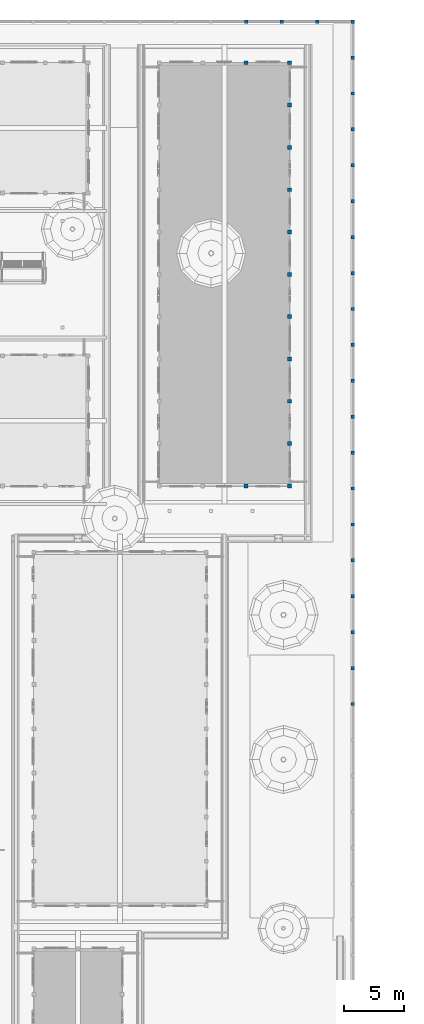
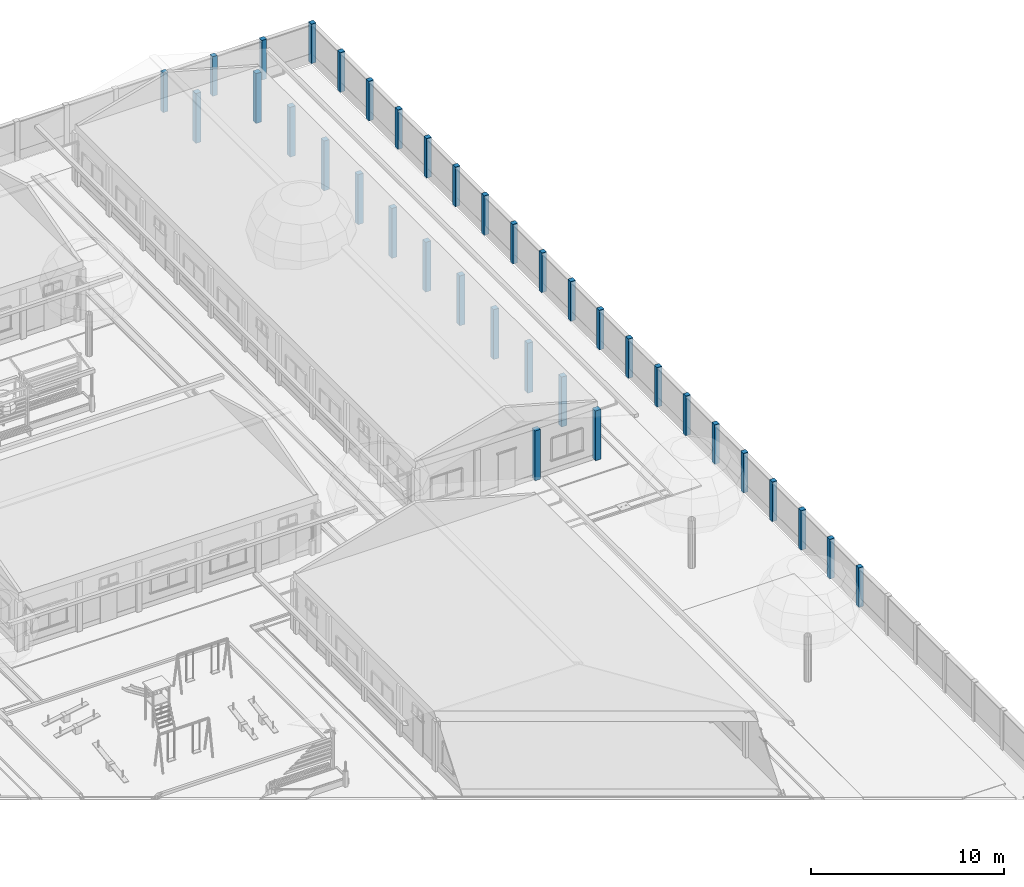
# One storey, part 12 of 177: 39 columns.
"""IFC4 building model written with IfcOpenShell, lengths in metres."""

from ifc_helpers import new_model, si_unit, origin, origin_with_axes, place, context, subcontext, project, spatial, triangles, element, save


model = new_model("IFC4")

# Units and contexts
model_context = context("Model", 3, precision=1e-05, world=origin_with_axes())
body_context = subcontext(model_context, "Body", "Model", "MODEL_VIEW")
ifc_project = project(units=[si_unit("LENGTHUNIT", "METRE"), si_unit("AREAUNIT", "SQUARE_METRE"), si_unit("VOLUMEUNIT", "CUBIC_METRE"), si_unit("PLANEANGLEUNIT", "RADIAN")], contexts=[model_context])

# Site, building, storey
site_placement = place(None, origin_with_axes())
site = spatial("IfcSite", under=ifc_project, at=site_placement, Name="Predio Los Mangos - Morales, San Martín", CompositionType="ELEMENT")
building_placement = place(site_placement, origin())
building = spatial("IfcBuilding", under=site, at=building_placement, Name="Hogar de Refugio Temporal", CompositionType="ELEMENT")
storey_placement = place(building_placement, origin())
storey = spatial("IfcBuildingStorey", under=building, at=storey_placement, Name="NIVEL 1 (NPT +0.00)", CompositionType="ELEMENT", Elevation=0.0)

# Columns
column_1_placement = place(storey_placement, origin())
element("IfcColumn", 1, at=column_1_placement, inside=storey, Name="E-07_col", ObjectType="Columna", PredefinedType="COLUMN", context=body_context, shape_type="Tessellation", body=[
    triangles([(62.74, 92.54, 0.15), (63.06, 92.54, 0.15), (63.06, 92.86, 0.15), (62.74, 92.86, 0.15), (62.74, 92.54, 3.3), (63.06, 92.54, 3.3), (63.06, 92.86, 3.3), (62.74, 92.86, 3.3)], [[1, 4, 3], [1, 3, 2], [5, 6, 7], [5, 7, 8], [1, 2, 6], [1, 6, 5], [2, 3, 7], [2, 7, 6], [3, 4, 8], [3, 8, 7], [4, 1, 5], [4, 5, 8]]),
])
column_2_placement = place(storey_placement, origin())
element("IfcColumn", 2, at=column_2_placement, inside=storey, Name="E-07_col", ObjectType="Columna", PredefinedType="COLUMN", context=body_context, shape_type="Tessellation", body=[
    triangles([(66.34, 92.54, 0.15), (66.66, 92.54, 0.15), (66.66, 92.86, 0.15), (66.34, 92.86, 0.15), (66.34, 92.54, 3.3), (66.66, 92.54, 3.3), (66.66, 92.86, 3.3), (66.34, 92.86, 3.3)], [[1, 4, 3], [1, 3, 2], [5, 6, 7], [5, 7, 8], [1, 2, 6], [1, 6, 5], [2, 3, 7], [2, 7, 6], [3, 4, 8], [3, 8, 7], [4, 1, 5], [4, 5, 8]]),
])
column_3_placement = place(storey_placement, origin())
element("IfcColumn", 3, at=column_3_placement, inside=storey, Name="E-07_col", ObjectType="Columna", PredefinedType="COLUMN", context=body_context, shape_type="Tessellation", body=[
    triangles([(62.74, 127.64, 0.15), (63.06, 127.64, 0.15), (63.06, 127.96, 0.15), (62.74, 127.96, 0.15), (62.74, 127.64, 3.3), (63.06, 127.64, 3.3), (63.06, 127.96, 3.3), (62.74, 127.96, 3.3)], [[1, 4, 3], [1, 3, 2], [5, 6, 7], [5, 7, 8], [1, 2, 6], [1, 6, 5], [2, 3, 7], [2, 7, 6], [3, 4, 8], [3, 8, 7], [4, 1, 5], [4, 5, 8]]),
])
column_4_placement = place(storey_placement, origin())
element("IfcColumn", 4, at=column_4_placement, inside=storey, Name="E-07_col", ObjectType="Columna", PredefinedType="COLUMN", context=body_context, shape_type="Tessellation", body=[
    triangles([(66.34, 127.64, 0.15), (66.66, 127.64, 0.15), (66.66, 127.96, 0.15), (66.34, 127.96, 0.15), (66.34, 127.64, 3.3), (66.66, 127.64, 3.3), (66.66, 127.96, 3.3), (66.34, 127.96, 3.3)], [[1, 4, 3], [1, 3, 2], [5, 6, 7], [5, 7, 8], [1, 2, 6], [1, 6, 5], [2, 3, 7], [2, 7, 6], [3, 4, 8], [3, 8, 7], [4, 1, 5], [4, 5, 8]]),
])
column_5_placement = place(storey_placement, origin())
element("IfcColumn", 5, at=column_5_placement, inside=storey, Name="E-07_col", ObjectType="Columna", PredefinedType="COLUMN", context=body_context, shape_type="Tessellation", body=[
    triangles([(66.34, 92.54, 0.15), (66.66, 92.54, 0.15), (66.66, 92.86, 0.15), (66.34, 92.86, 0.15), (66.34, 92.54, 3.3), (66.66, 92.54, 3.3), (66.66, 92.86, 3.3), (66.34, 92.86, 3.3)], [[1, 4, 3], [1, 3, 2], [5, 6, 7], [5, 7, 8], [1, 2, 6], [1, 6, 5], [2, 3, 7], [2, 7, 6], [3, 4, 8], [3, 8, 7], [4, 1, 5], [4, 5, 8]]),
])
column_6_placement = place(storey_placement, origin())
element("IfcColumn", 6, at=column_6_placement, inside=storey, Name="E-07_col", ObjectType="Columna", PredefinedType="COLUMN", context=body_context, shape_type="Tessellation", body=[
    triangles([(66.34, 96.05, 0.15), (66.66, 96.05, 0.15), (66.66, 96.37, 0.15), (66.34, 96.37, 0.15), (66.34, 96.05, 3.3), (66.66, 96.05, 3.3), (66.66, 96.37, 3.3), (66.34, 96.37, 3.3)], [[1, 4, 3], [1, 3, 2], [5, 6, 7], [5, 7, 8], [1, 2, 6], [1, 6, 5], [2, 3, 7], [2, 7, 6], [3, 4, 8], [3, 8, 7], [4, 1, 5], [4, 5, 8]]),
])
column_7_placement = place(storey_placement, origin())
element("IfcColumn", 7, at=column_7_placement, inside=storey, Name="E-07_col", ObjectType="Columna", PredefinedType="COLUMN", context=body_context, shape_type="Tessellation", body=[
    triangles([(66.34, 99.56, 0.15), (66.66, 99.56, 0.15), (66.66, 99.88, 0.15), (66.34, 99.88, 0.15), (66.34, 99.56, 3.3), (66.66, 99.56, 3.3), (66.66, 99.88, 3.3), (66.34, 99.88, 3.3)], [[1, 4, 3], [1, 3, 2], [5, 6, 7], [5, 7, 8], [1, 2, 6], [1, 6, 5], [2, 3, 7], [2, 7, 6], [3, 4, 8], [3, 8, 7], [4, 1, 5], [4, 5, 8]]),
])
column_8_placement = place(storey_placement, origin())
element("IfcColumn", 8, at=column_8_placement, inside=storey, Name="E-07_col", ObjectType="Columna", PredefinedType="COLUMN", context=body_context, shape_type="Tessellation", body=[
    triangles([(66.34, 103.07, 0.15), (66.66, 103.07, 0.15), (66.66, 103.39, 0.15), (66.34, 103.39, 0.15), (66.34, 103.07, 3.3), (66.66, 103.07, 3.3), (66.66, 103.39, 3.3), (66.34, 103.39, 3.3)], [[1, 4, 3], [1, 3, 2], [5, 6, 7], [5, 7, 8], [1, 2, 6], [1, 6, 5], [2, 3, 7], [2, 7, 6], [3, 4, 8], [3, 8, 7], [4, 1, 5], [4, 5, 8]]),
])
column_9_placement = place(storey_placement, origin())
element("IfcColumn", 9, at=column_9_placement, inside=storey, Name="E-07_col", ObjectType="Columna", PredefinedType="COLUMN", context=body_context, shape_type="Tessellation", body=[
    triangles([(66.34, 106.58, 0.15), (66.66, 106.58, 0.15), (66.66, 106.9, 0.15), (66.34, 106.9, 0.15), (66.34, 106.58, 3.3), (66.66, 106.58, 3.3), (66.66, 106.9, 3.3), (66.34, 106.9, 3.3)], [[1, 4, 3], [1, 3, 2], [5, 6, 7], [5, 7, 8], [1, 2, 6], [1, 6, 5], [2, 3, 7], [2, 7, 6], [3, 4, 8], [3, 8, 7], [4, 1, 5], [4, 5, 8]]),
])
column_10_placement = place(storey_placement, origin())
element("IfcColumn", 10, at=column_10_placement, inside=storey, Name="E-07_col", ObjectType="Columna", PredefinedType="COLUMN", context=body_context, shape_type="Tessellation", body=[
    triangles([(66.34, 110.09, 0.15), (66.66, 110.09, 0.15), (66.66, 110.41, 0.15), (66.34, 110.41, 0.15), (66.34, 110.09, 3.3), (66.66, 110.09, 3.3), (66.66, 110.41, 3.3), (66.34, 110.41, 3.3)], [[1, 4, 3], [1, 3, 2], [5, 6, 7], [5, 7, 8], [1, 2, 6], [1, 6, 5], [2, 3, 7], [2, 7, 6], [3, 4, 8], [3, 8, 7], [4, 1, 5], [4, 5, 8]]),
])
column_11_placement = place(storey_placement, origin())
element("IfcColumn", 11, at=column_11_placement, inside=storey, Name="E-07_col", ObjectType="Columna", PredefinedType="COLUMN", context=body_context, shape_type="Tessellation", body=[
    triangles([(66.34, 113.6, 0.15), (66.66, 113.6, 0.15), (66.66, 113.92, 0.15), (66.34, 113.92, 0.15), (66.34, 113.6, 3.3), (66.66, 113.6, 3.3), (66.66, 113.92, 3.3), (66.34, 113.92, 3.3)], [[1, 4, 3], [1, 3, 2], [5, 6, 7], [5, 7, 8], [1, 2, 6], [1, 6, 5], [2, 3, 7], [2, 7, 6], [3, 4, 8], [3, 8, 7], [4, 1, 5], [4, 5, 8]]),
])
column_12_placement = place(storey_placement, origin())
element("IfcColumn", 12, at=column_12_placement, inside=storey, Name="E-07_col", ObjectType="Columna", PredefinedType="COLUMN", context=body_context, shape_type="Tessellation", body=[
    triangles([(66.34, 117.11, 0.15), (66.66, 117.11, 0.15), (66.66, 117.43, 0.15), (66.34, 117.43, 0.15), (66.34, 117.11, 3.3), (66.66, 117.11, 3.3), (66.66, 117.43, 3.3), (66.34, 117.43, 3.3)], [[1, 4, 3], [1, 3, 2], [5, 6, 7], [5, 7, 8], [1, 2, 6], [1, 6, 5], [2, 3, 7], [2, 7, 6], [3, 4, 8], [3, 8, 7], [4, 1, 5], [4, 5, 8]]),
])
column_13_placement = place(storey_placement, origin())
element("IfcColumn", 13, at=column_13_placement, inside=storey, Name="E-07_col", ObjectType="Columna", PredefinedType="COLUMN", context=body_context, shape_type="Tessellation", body=[
    triangles([(66.34, 120.62, 0.15), (66.66, 120.62, 0.15), (66.66, 120.94, 0.15), (66.34, 120.94, 0.15), (66.34, 120.62, 3.3), (66.66, 120.62, 3.3), (66.66, 120.94, 3.3), (66.34, 120.94, 3.3)], [[1, 4, 3], [1, 3, 2], [5, 6, 7], [5, 7, 8], [1, 2, 6], [1, 6, 5], [2, 3, 7], [2, 7, 6], [3, 4, 8], [3, 8, 7], [4, 1, 5], [4, 5, 8]]),
])
column_14_placement = place(storey_placement, origin())
element("IfcColumn", 14, at=column_14_placement, inside=storey, Name="E-07_col", ObjectType="Columna", PredefinedType="COLUMN", context=body_context, shape_type="Tessellation", body=[
    triangles([(66.34, 124.13, 0.15), (66.66, 124.13, 0.15), (66.66, 124.45, 0.15), (66.34, 124.45, 0.15), (66.34, 124.13, 3.3), (66.66, 124.13, 3.3), (66.66, 124.45, 3.3), (66.34, 124.45, 3.3)], [[1, 4, 3], [1, 3, 2], [5, 6, 7], [5, 7, 8], [1, 2, 6], [1, 6, 5], [2, 3, 7], [2, 7, 6], [3, 4, 8], [3, 8, 7], [4, 1, 5], [4, 5, 8]]),
])
column_15_placement = place(storey_placement, origin())
element("IfcColumn", 15, at=column_15_placement, inside=storey, Name="E-07_col", ObjectType="Columna", PredefinedType="COLUMN", context=body_context, shape_type="Tessellation", body=[
    triangles([(66.34, 127.64, 0.15), (66.66, 127.64, 0.15), (66.66, 127.96, 0.15), (66.34, 127.96, 0.15), (66.34, 127.64, 3.3), (66.66, 127.64, 3.3), (66.66, 127.96, 3.3), (66.34, 127.96, 3.3)], [[1, 4, 3], [1, 3, 2], [5, 6, 7], [5, 7, 8], [1, 2, 6], [1, 6, 5], [2, 3, 7], [2, 7, 6], [3, 4, 8], [3, 8, 7], [4, 1, 5], [4, 5, 8]]),
])
column_16_placement = place(storey_placement, origin())
element("IfcColumn", 16, at=column_16_placement, inside=storey, Name="columna_cerco", ObjectType="Columna", PredefinedType="COLUMN", context=body_context, shape_type="Tessellation", body=[
    triangles([(71.9, 74.465, 0.0), (71.9, 74.745, 0.0), (71.62, 74.745, 0.0), (71.62, 74.465, 0.0), (71.9, 74.465, 2.5), (71.9, 74.745, 2.5), (71.62, 74.745, 2.5), (71.62, 74.465, 2.5)], [[1, 4, 3], [1, 3, 2], [5, 6, 7], [5, 7, 8], [1, 2, 6], [1, 6, 5], [2, 3, 7], [2, 7, 6], [3, 4, 8], [3, 8, 7], [4, 1, 5], [4, 5, 8]]),
])
column_17_placement = place(storey_placement, origin())
element("IfcColumn", 17, at=column_17_placement, inside=storey, Name="columna_cerco", ObjectType="Columna", PredefinedType="COLUMN", context=body_context, shape_type="Tessellation", body=[
    triangles([(71.9, 77.4442, 0.0), (71.9, 77.7242, 0.0), (71.62, 77.7242, 0.0), (71.62, 77.4442, 0.0), (71.9, 77.4442, 2.5), (71.9, 77.7242, 2.5), (71.62, 77.7242, 2.5), (71.62, 77.4442, 2.5)], [[1, 4, 3], [1, 3, 2], [5, 6, 7], [5, 7, 8], [1, 2, 6], [1, 6, 5], [2, 3, 7], [2, 7, 6], [3, 4, 8], [3, 8, 7], [4, 1, 5], [4, 5, 8]]),
])
column_18_placement = place(storey_placement, origin())
element("IfcColumn", 18, at=column_18_placement, inside=storey, Name="columna_cerco", ObjectType="Columna", PredefinedType="COLUMN", context=body_context, shape_type="Tessellation", body=[
    triangles([(71.9, 80.4234, 0.0), (71.9, 80.7034, 0.0), (71.62, 80.7034, 0.0), (71.62, 80.4234, 0.0), (71.9, 80.4234, 2.5), (71.9, 80.7034, 2.5), (71.62, 80.7034, 2.5), (71.62, 80.4234, 2.5)], [[1, 4, 3], [1, 3, 2], [5, 6, 7], [5, 7, 8], [1, 2, 6], [1, 6, 5], [2, 3, 7], [2, 7, 6], [3, 4, 8], [3, 8, 7], [4, 1, 5], [4, 5, 8]]),
])
column_19_placement = place(storey_placement, origin())
element("IfcColumn", 19, at=column_19_placement, inside=storey, Name="columna_cerco", ObjectType="Columna", PredefinedType="COLUMN", context=body_context, shape_type="Tessellation", body=[
    triangles([(71.9, 83.4026, 0.0), (71.9, 83.6826, 0.0), (71.62, 83.6826, 0.0), (71.62, 83.4026, 0.0), (71.9, 83.4026, 2.5), (71.9, 83.6826, 2.5), (71.62, 83.6826, 2.5), (71.62, 83.4026, 2.5)], [[1, 4, 3], [1, 3, 2], [5, 6, 7], [5, 7, 8], [1, 2, 6], [1, 6, 5], [2, 3, 7], [2, 7, 6], [3, 4, 8], [3, 8, 7], [4, 1, 5], [4, 5, 8]]),
])
column_20_placement = place(storey_placement, origin())
element("IfcColumn", 20, at=column_20_placement, inside=storey, Name="columna_cerco", ObjectType="Columna", PredefinedType="COLUMN", context=body_context, shape_type="Tessellation", body=[
    triangles([(71.9, 86.3818, 0.0), (71.9, 86.6618, 0.0), (71.62, 86.6618, 0.0), (71.62, 86.3818, 0.0), (71.9, 86.3818, 2.5), (71.9, 86.6618, 2.5), (71.62, 86.6618, 2.5), (71.62, 86.3818, 2.5)], [[1, 4, 3], [1, 3, 2], [5, 6, 7], [5, 7, 8], [1, 2, 6], [1, 6, 5], [2, 3, 7], [2, 7, 6], [3, 4, 8], [3, 8, 7], [4, 1, 5], [4, 5, 8]]),
])
column_21_placement = place(storey_placement, origin())
element("IfcColumn", 21, at=column_21_placement, inside=storey, Name="columna_cerco", ObjectType="Columna", PredefinedType="COLUMN", context=body_context, shape_type="Tessellation", body=[
    triangles([(71.9, 89.3611, 0.0), (71.9, 89.6411, 0.0), (71.62, 89.6411, 0.0), (71.62, 89.3611, 0.0), (71.9, 89.3611, 2.5), (71.9, 89.6411, 2.5), (71.62, 89.6411, 2.5), (71.62, 89.3611, 2.5)], [[1, 4, 3], [1, 3, 2], [5, 6, 7], [5, 7, 8], [1, 2, 6], [1, 6, 5], [2, 3, 7], [2, 7, 6], [3, 4, 8], [3, 8, 7], [4, 1, 5], [4, 5, 8]]),
])
column_22_placement = place(storey_placement, origin())
element("IfcColumn", 22, at=column_22_placement, inside=storey, Name="columna_cerco", ObjectType="Columna", PredefinedType="COLUMN", context=body_context, shape_type="Tessellation", body=[
    triangles([(71.9, 92.3403, 0.0), (71.9, 92.6203, 0.0), (71.62, 92.6203, 0.0), (71.62, 92.3403, 0.0), (71.9, 92.3403, 2.5), (71.9, 92.6203, 2.5), (71.62, 92.6203, 2.5), (71.62, 92.3403, 2.5)], [[1, 4, 3], [1, 3, 2], [5, 6, 7], [5, 7, 8], [1, 2, 6], [1, 6, 5], [2, 3, 7], [2, 7, 6], [3, 4, 8], [3, 8, 7], [4, 1, 5], [4, 5, 8]]),
])
column_23_placement = place(storey_placement, origin())
element("IfcColumn", 23, at=column_23_placement, inside=storey, Name="columna_cerco", ObjectType="Columna", PredefinedType="COLUMN", context=body_context, shape_type="Tessellation", body=[
    triangles([(71.9, 95.3195, 0.0), (71.9, 95.5995, 0.0), (71.62, 95.5995, 0.0), (71.62, 95.3195, 0.0), (71.9, 95.3195, 2.5), (71.9, 95.5995, 2.5), (71.62, 95.5995, 2.5), (71.62, 95.3195, 2.5)], [[1, 4, 3], [1, 3, 2], [5, 6, 7], [5, 7, 8], [1, 2, 6], [1, 6, 5], [2, 3, 7], [2, 7, 6], [3, 4, 8], [3, 8, 7], [4, 1, 5], [4, 5, 8]]),
])
column_24_placement = place(storey_placement, origin())
element("IfcColumn", 24, at=column_24_placement, inside=storey, Name="columna_cerco", ObjectType="Columna", PredefinedType="COLUMN", context=body_context, shape_type="Tessellation", body=[
    triangles([(71.9, 98.2987, 0.0), (71.9, 98.5787, 0.0), (71.62, 98.5787, 0.0), (71.62, 98.2987, 0.0), (71.9, 98.2987, 2.5), (71.9, 98.5787, 2.5), (71.62, 98.5787, 2.5), (71.62, 98.2987, 2.5)], [[1, 4, 3], [1, 3, 2], [5, 6, 7], [5, 7, 8], [1, 2, 6], [1, 6, 5], [2, 3, 7], [2, 7, 6], [3, 4, 8], [3, 8, 7], [4, 1, 5], [4, 5, 8]]),
])
column_25_placement = place(storey_placement, origin())
element("IfcColumn", 25, at=column_25_placement, inside=storey, Name="columna_cerco", ObjectType="Columna", PredefinedType="COLUMN", context=body_context, shape_type="Tessellation", body=[
    triangles([(71.9, 101.2779, 0.0), (71.9, 101.5579, 0.0), (71.62, 101.5579, 0.0), (71.62, 101.2779, 0.0), (71.9, 101.2779, 2.5), (71.9, 101.5579, 2.5), (71.62, 101.5579, 2.5), (71.62, 101.2779, 2.5)], [[1, 4, 3], [1, 3, 2], [5, 6, 7], [5, 7, 8], [1, 2, 6], [1, 6, 5], [2, 3, 7], [2, 7, 6], [3, 4, 8], [3, 8, 7], [4, 1, 5], [4, 5, 8]]),
])
column_26_placement = place(storey_placement, origin())
element("IfcColumn", 26, at=column_26_placement, inside=storey, Name="columna_cerco", ObjectType="Columna", PredefinedType="COLUMN", context=body_context, shape_type="Tessellation", body=[
    triangles([(71.9, 104.2571, 0.0), (71.9, 104.5371, 0.0), (71.62, 104.5371, 0.0), (71.62, 104.2571, 0.0), (71.9, 104.2571, 2.5), (71.9, 104.5371, 2.5), (71.62, 104.5371, 2.5), (71.62, 104.2571, 2.5)], [[1, 4, 3], [1, 3, 2], [5, 6, 7], [5, 7, 8], [1, 2, 6], [1, 6, 5], [2, 3, 7], [2, 7, 6], [3, 4, 8], [3, 8, 7], [4, 1, 5], [4, 5, 8]]),
])
column_27_placement = place(storey_placement, origin())
element("IfcColumn", 27, at=column_27_placement, inside=storey, Name="columna_cerco", ObjectType="Columna", PredefinedType="COLUMN", context=body_context, shape_type="Tessellation", body=[
    triangles([(71.9, 107.2363, 0.0), (71.9, 107.5163, 0.0), (71.62, 107.5163, 0.0), (71.62, 107.2363, 0.0), (71.9, 107.2363, 2.5), (71.9, 107.5163, 2.5), (71.62, 107.5163, 2.5), (71.62, 107.2363, 2.5)], [[1, 4, 3], [1, 3, 2], [5, 6, 7], [5, 7, 8], [1, 2, 6], [1, 6, 5], [2, 3, 7], [2, 7, 6], [3, 4, 8], [3, 8, 7], [4, 1, 5], [4, 5, 8]]),
])
column_28_placement = place(storey_placement, origin())
element("IfcColumn", 28, at=column_28_placement, inside=storey, Name="columna_cerco", ObjectType="Columna", PredefinedType="COLUMN", context=body_context, shape_type="Tessellation", body=[
    triangles([(71.9, 110.2155, 0.0), (71.9, 110.4955, 0.0), (71.62, 110.4955, 0.0), (71.62, 110.2155, 0.0), (71.9, 110.2155, 2.5), (71.9, 110.4955, 2.5), (71.62, 110.4955, 2.5), (71.62, 110.2155, 2.5)], [[1, 4, 3], [1, 3, 2], [5, 6, 7], [5, 7, 8], [1, 2, 6], [1, 6, 5], [2, 3, 7], [2, 7, 6], [3, 4, 8], [3, 8, 7], [4, 1, 5], [4, 5, 8]]),
])
column_29_placement = place(storey_placement, origin())
element("IfcColumn", 29, at=column_29_placement, inside=storey, Name="columna_cerco", ObjectType="Columna", PredefinedType="COLUMN", context=body_context, shape_type="Tessellation", body=[
    triangles([(71.9, 113.1947, 0.0), (71.9, 113.4747, 0.0), (71.62, 113.4747, 0.0), (71.62, 113.1947, 0.0), (71.9, 113.1947, 2.5), (71.9, 113.4747, 2.5), (71.62, 113.4747, 2.5), (71.62, 113.1947, 2.5)], [[1, 4, 3], [1, 3, 2], [5, 6, 7], [5, 7, 8], [1, 2, 6], [1, 6, 5], [2, 3, 7], [2, 7, 6], [3, 4, 8], [3, 8, 7], [4, 1, 5], [4, 5, 8]]),
])
column_30_placement = place(storey_placement, origin())
element("IfcColumn", 30, at=column_30_placement, inside=storey, Name="columna_cerco", ObjectType="Columna", PredefinedType="COLUMN", context=body_context, shape_type="Tessellation", body=[
    triangles([(71.9, 116.174, 0.0), (71.9, 116.4539, 0.0), (71.62, 116.4539, 0.0), (71.62, 116.174, 0.0), (71.9, 116.174, 2.5), (71.9, 116.4539, 2.5), (71.62, 116.4539, 2.5), (71.62, 116.174, 2.5)], [[1, 4, 3], [1, 3, 2], [5, 6, 7], [5, 7, 8], [1, 2, 6], [1, 6, 5], [2, 3, 7], [2, 7, 6], [3, 4, 8], [3, 8, 7], [4, 1, 5], [4, 5, 8]]),
])
column_31_placement = place(storey_placement, origin())
element("IfcColumn", 31, at=column_31_placement, inside=storey, Name="columna_cerco", ObjectType="Columna", PredefinedType="COLUMN", context=body_context, shape_type="Tessellation", body=[
    triangles([(71.9, 119.1532, 0.0), (71.9, 119.4332, 0.0), (71.62, 119.4332, 0.0), (71.62, 119.1532, 0.0), (71.9, 119.1532, 2.5), (71.9, 119.4332, 2.5), (71.62, 119.4332, 2.5), (71.62, 119.1532, 2.5)], [[1, 4, 3], [1, 3, 2], [5, 6, 7], [5, 7, 8], [1, 2, 6], [1, 6, 5], [2, 3, 7], [2, 7, 6], [3, 4, 8], [3, 8, 7], [4, 1, 5], [4, 5, 8]]),
])
column_32_placement = place(storey_placement, origin())
element("IfcColumn", 32, at=column_32_placement, inside=storey, Name="columna_cerco", ObjectType="Columna", PredefinedType="COLUMN", context=body_context, shape_type="Tessellation", body=[
    triangles([(71.9, 122.1324, 0.0), (71.9, 122.4124, 0.0), (71.62, 122.4124, 0.0), (71.62, 122.1324, 0.0), (71.9, 122.1324, 2.5), (71.9, 122.4124, 2.5), (71.62, 122.4124, 2.5), (71.62, 122.1324, 2.5)], [[1, 4, 3], [1, 3, 2], [5, 6, 7], [5, 7, 8], [1, 2, 6], [1, 6, 5], [2, 3, 7], [2, 7, 6], [3, 4, 8], [3, 8, 7], [4, 1, 5], [4, 5, 8]]),
])
column_33_placement = place(storey_placement, origin())
element("IfcColumn", 33, at=column_33_placement, inside=storey, Name="columna_cerco", ObjectType="Columna", PredefinedType="COLUMN", context=body_context, shape_type="Tessellation", body=[
    triangles([(71.9, 125.1116, 0.0), (71.9, 125.3916, 0.0), (71.62, 125.3916, 0.0), (71.62, 125.1116, 0.0), (71.9, 125.1116, 2.5), (71.9, 125.3916, 2.5), (71.62, 125.3916, 2.5), (71.62, 125.1116, 2.5)], [[1, 4, 3], [1, 3, 2], [5, 6, 7], [5, 7, 8], [1, 2, 6], [1, 6, 5], [2, 3, 7], [2, 7, 6], [3, 4, 8], [3, 8, 7], [4, 1, 5], [4, 5, 8]]),
])
column_34_placement = place(storey_placement, origin())
element("IfcColumn", 34, at=column_34_placement, inside=storey, Name="columna_cerco", ObjectType="Columna", PredefinedType="COLUMN", context=body_context, shape_type="Tessellation", body=[
    triangles([(71.9, 128.0908, 0.0), (71.9, 128.3708, 0.0), (71.62, 128.3708, 0.0), (71.62, 128.0908, 0.0), (71.9, 128.0908, 2.5), (71.9, 128.3708, 2.5), (71.62, 128.3708, 2.5), (71.62, 128.0908, 2.5)], [[1, 4, 3], [1, 3, 2], [5, 6, 7], [5, 7, 8], [1, 2, 6], [1, 6, 5], [2, 3, 7], [2, 7, 6], [3, 4, 8], [3, 8, 7], [4, 1, 5], [4, 5, 8]]),
])
column_35_placement = place(storey_placement, origin())
element("IfcColumn", 35, at=column_35_placement, inside=storey, Name="columna_cerco", ObjectType="Columna", PredefinedType="COLUMN", context=body_context, shape_type="Tessellation", body=[
    triangles([(71.9, 131.07, 0.0), (71.9, 131.35, 0.0), (71.62, 131.35, 0.0), (71.62, 131.07, 0.0), (71.9, 131.07, 2.5), (71.9, 131.35, 2.5), (71.62, 131.35, 2.5), (71.62, 131.07, 2.5)], [[1, 4, 3], [1, 3, 2], [5, 6, 7], [5, 7, 8], [1, 2, 6], [1, 6, 5], [2, 3, 7], [2, 7, 6], [3, 4, 8], [3, 8, 7], [4, 1, 5], [4, 5, 8]]),
])
column_36_placement = place(storey_placement, origin())
element("IfcColumn", 36, at=column_36_placement, inside=storey, Name="columna_cerco", ObjectType="Columna", PredefinedType="COLUMN", context=body_context, shape_type="Tessellation", body=[
    triangles([(71.9, 131.35, 0.0), (71.62, 131.35, 0.0), (71.62, 131.07, 0.0), (71.9, 131.07, 0.0), (71.9, 131.35, 2.5), (71.62, 131.35, 2.5), (71.62, 131.07, 2.5), (71.9, 131.07, 2.5)], [[1, 4, 3], [1, 3, 2], [5, 6, 7], [5, 7, 8], [1, 2, 6], [1, 6, 5], [2, 3, 7], [2, 7, 6], [3, 4, 8], [3, 8, 7], [4, 1, 5], [4, 5, 8]]),
])
column_37_placement = place(storey_placement, origin())
element("IfcColumn", 37, at=column_37_placement, inside=storey, Name="columna_cerco", ObjectType="Columna", PredefinedType="COLUMN", context=body_context, shape_type="Tessellation", body=[
    triangles([(68.9538, 131.35, 0.0), (68.6738, 131.35, 0.0), (68.6738, 131.07, 0.0), (68.9538, 131.07, 0.0), (68.9538, 131.35, 2.5), (68.6738, 131.35, 2.5), (68.6738, 131.07, 2.5), (68.9538, 131.07, 2.5)], [[1, 4, 3], [1, 3, 2], [5, 6, 7], [5, 7, 8], [1, 2, 6], [1, 6, 5], [2, 3, 7], [2, 7, 6], [3, 4, 8], [3, 8, 7], [4, 1, 5], [4, 5, 8]]),
])
column_38_placement = place(storey_placement, origin())
element("IfcColumn", 38, at=column_38_placement, inside=storey, Name="columna_cerco", ObjectType="Columna", PredefinedType="COLUMN", context=body_context, shape_type="Tessellation", body=[
    triangles([(66.0075, 131.35, 0.0), (65.7275, 131.35, 0.0), (65.7275, 131.07, 0.0), (66.0075, 131.07, 0.0), (66.0075, 131.35, 2.5), (65.7275, 131.35, 2.5), (65.7275, 131.07, 2.5), (66.0075, 131.07, 2.5)], [[1, 4, 3], [1, 3, 2], [5, 6, 7], [5, 7, 8], [1, 2, 6], [1, 6, 5], [2, 3, 7], [2, 7, 6], [3, 4, 8], [3, 8, 7], [4, 1, 5], [4, 5, 8]]),
])
column_39_placement = place(storey_placement, origin())
element("IfcColumn", 39, at=column_39_placement, inside=storey, Name="columna_cerco", ObjectType="Columna", PredefinedType="COLUMN", context=body_context, shape_type="Tessellation", body=[
    triangles([(63.0612, 131.35, 0.0), (62.7812, 131.35, 0.0), (62.7812, 131.07, 0.0), (63.0612, 131.07, 0.0), (63.0612, 131.35, 2.5), (62.7812, 131.35, 2.5), (62.7812, 131.07, 2.5), (63.0612, 131.07, 2.5)], [[1, 4, 3], [1, 3, 2], [5, 6, 7], [5, 7, 8], [1, 2, 6], [1, 6, 5], [2, 3, 7], [2, 7, 6], [3, 4, 8], [3, 8, 7], [4, 1, 5], [4, 5, 8]]),
])

save(model, "model.ifc")
